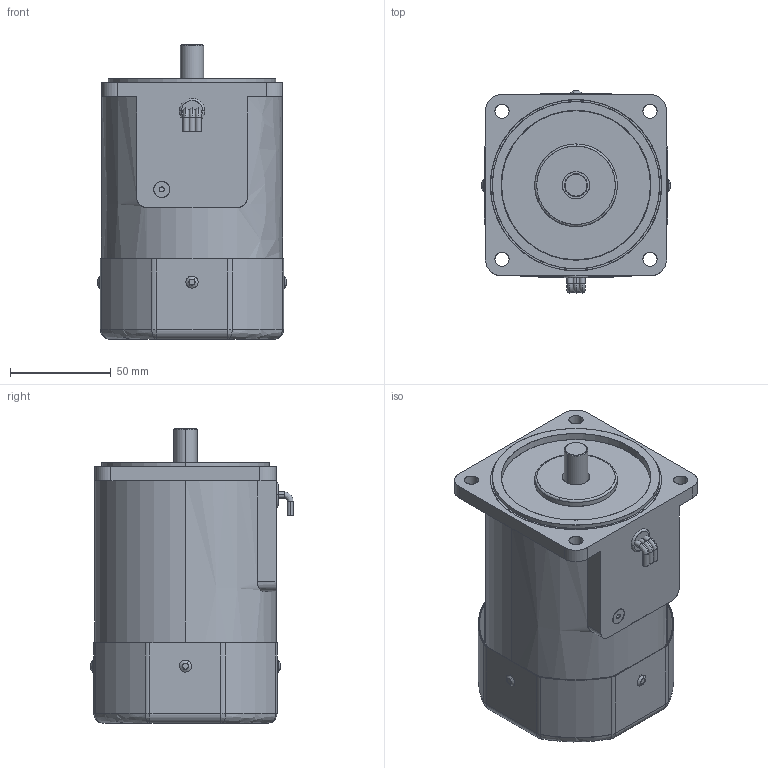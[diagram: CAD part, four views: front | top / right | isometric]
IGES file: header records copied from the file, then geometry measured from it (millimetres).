
Start section: SolidWorks IGES file using analytic representation for surfaces
Bounding box: 94 x 100.5 x 146.5 mm (x, y, z)
Surface area: 91821.1 mm2 (no closed solid volume)
Topology: 0 solids, 0 shells, 139 faces, 2228 edges, 2220 vertices
Faces by surface type: revolution 76, bspline 63
